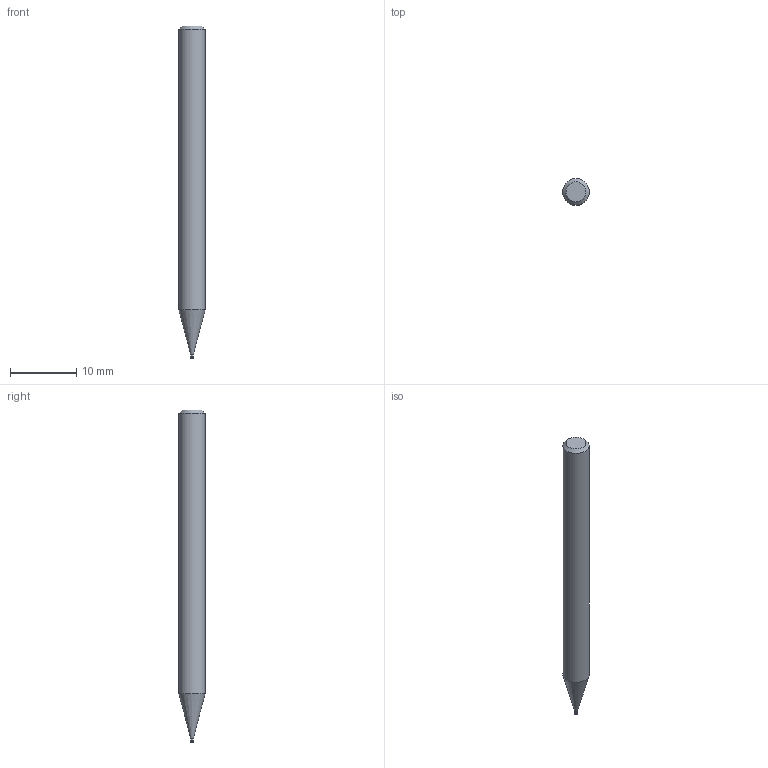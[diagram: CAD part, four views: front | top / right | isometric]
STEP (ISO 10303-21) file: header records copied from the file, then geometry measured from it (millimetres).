
FILE_DESCRIPTION((''),'2;1');
FILE_NAME('C:\Users\nsx150\AppData\Local\Temp\Mastercam 2021\LJSIDMOTM8\TEMP.step','2021-08-03T13:48:13',(''),(''),'STEP Write','Mastercam 2021 ... CNC Software, Inc.','');
FILE_SCHEMA(('AUTOMOTIVE_DESIGN'));
Length unit declared in the file: millimetre
Products named in the file (1): None
Bounding box: 4 x 4 x 50 mm (x, y, z)
Volume: 566.8 mm3; surface area: 594.6 mm2
Topology: 2 solids, 2 shells, 10 faces, 14 edges, 8 vertices
Faces by surface type: plane 4, cylinder 3, cone 2, torus 1
Full cylindrical faces by diameter (mm): 0.37 x1, 0.4 x1, 4 x1
Entity records: 232 total; most frequent: DIRECTION 40, CARTESIAN_POINT 28, AXIS2_PLACEMENT_3D 20, ORIENTED_EDGE 16, EDGE_LOOP 16, STYLED_ITEM 13, ADVANCED_FACE 10, FACE_BOUND 10
